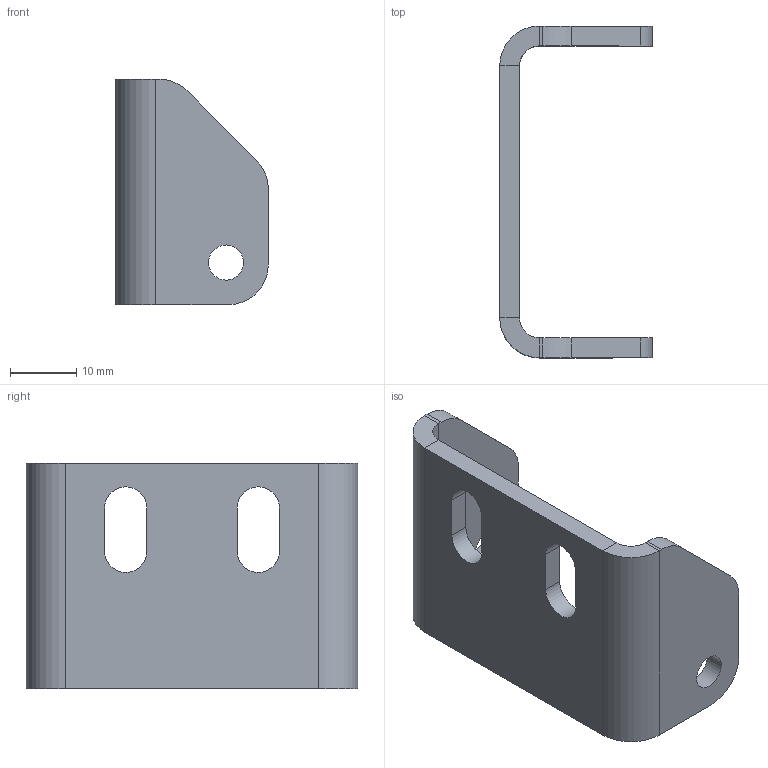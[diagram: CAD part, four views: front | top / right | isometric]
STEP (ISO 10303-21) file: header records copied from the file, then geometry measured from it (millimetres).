
FILE_DESCRIPTION (( 'STEP AP214' ), '1' );
FILE_NAME ('MAM11601 -XA- Plaque maintiens Poulie Y_V2.STEP', '2024-12-18T14:03:49', ( '' ), ( '' ), 'SwSTEP 2.0', 'SolidWorks 2019', '' );
FILE_SCHEMA (( 'AUTOMOTIVE_DESIGN' ));
Length unit declared in the file: millimetre
Products named in the file (1): MAM11601 -XA- Plaque maintiens Poulie Y_V2
Bounding box: 23 x 50 x 34 mm (x, y, z)
Volume: 7567.4 mm3; surface area: 5996.5 mm2
Topology: 1 solids, 1 shells, 42 faces, 104 edges, 64 vertices
Faces by surface type: plane 24, cylinder 18
Entity records: 1286 total; most frequent: DIRECTION 226, CARTESIAN_POINT 211, ORIENTED_EDGE 208, EDGE_CURVE 104, AXIS2_PLACEMENT_3D 79, VECTOR 68, LINE 68, VERTEX_POINT 64
